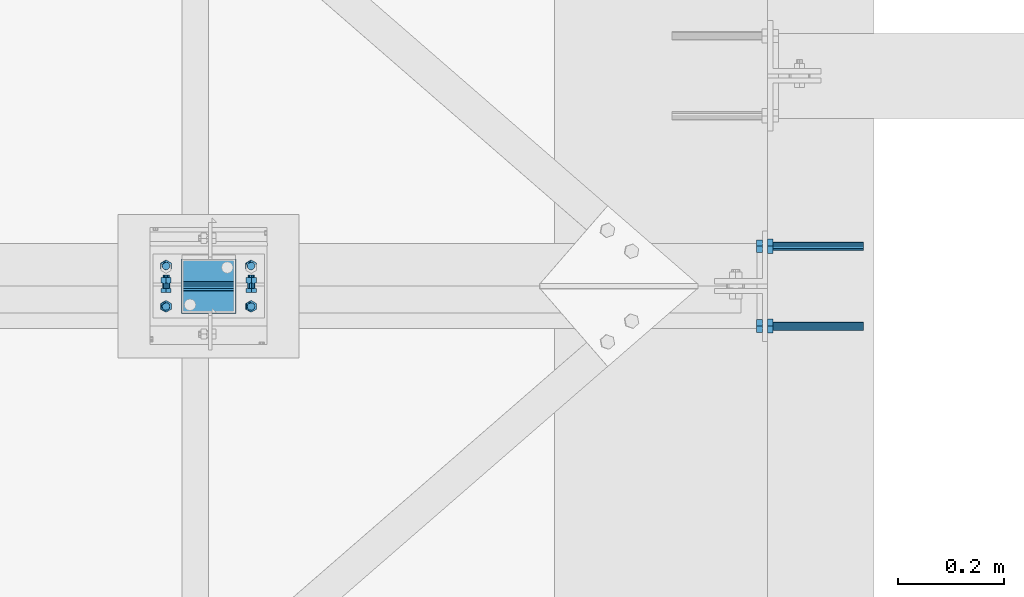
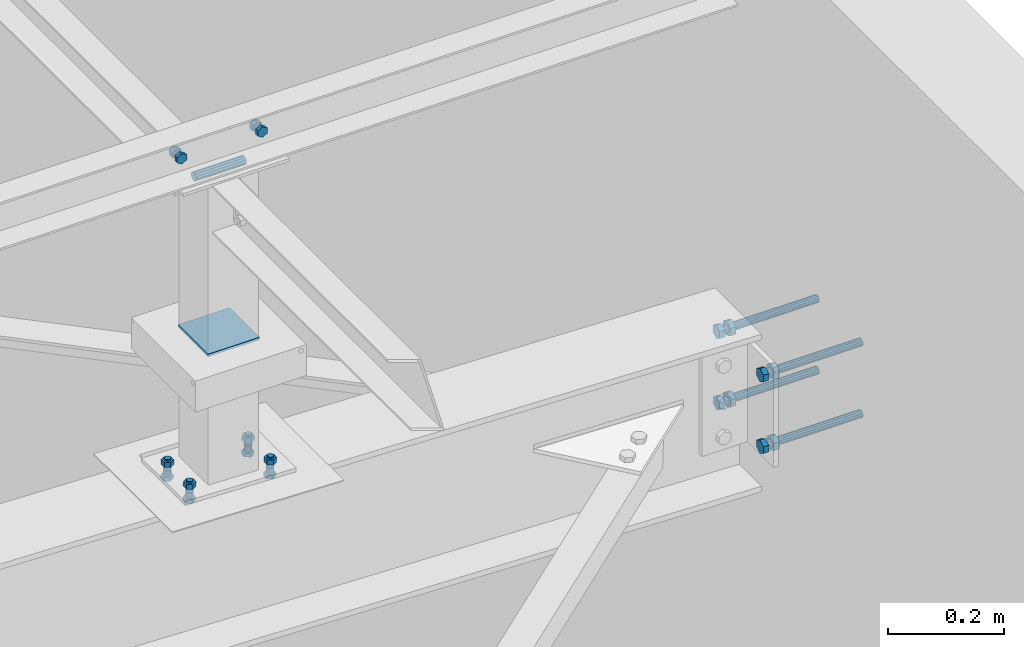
# One storey, part 275 of 3134: 7 mechanical fasteners, 6 elements without a shape of their own.
"""IFC2X3 building model written with IfcOpenShell, lengths in millimetres."""

import ifcopenshell
import ifcopenshell.guid

model = None  # the IFC model being written
_history = None  # IfcOwnerHistory: only IFC2X3 demands one
_inside = {}  # id of a spatial element -> (the spatial element, [elements in it])
_under = {}  # id of a project, library or spatial element -> (it, [spatial elements below it])
_declared = {}  # id of a project -> (the project, [libraries it declares])
_typed = {}  # id of a type object -> (the type object, [elements of that type])
_made_of = {}  # id of a material, layer set ... -> (it, [elements and type objects made of it])


def new_model(schema):
    """Start an empty IFC model of exactly this schema.

    Asked for "IFC4X3", IfcOpenShell would pick the latest addendum, in which some entities
    have other attributes; the version numbers below select the first issue.
    IFC2X3 requires an IfcOwnerHistory on every rooted entity: one is made here for all.
    """
    global model, _history
    if schema == "IFC4X3":
        model = ifcopenshell.file(schema_version=(4, 3, 0, 0))
    else:
        model = ifcopenshell.file(schema=schema)
    _inside.clear()
    _under.clear()
    _declared.clear()
    _typed.clear()
    _made_of.clear()
    _history = None
    if model.schema == "IFC2X3":
        org = make("IfcOrganization", Name="unknown")
        user = make(
            "IfcPersonAndOrganization",
            ThePerson=make("IfcPerson", FamilyName="unknown"),
            TheOrganization=org,
        )
        app = make(
            "IfcApplication",
            ApplicationDeveloper=org,
            Version="unknown",
            ApplicationFullName="unknown",
            ApplicationIdentifier="unknown",
        )
        _history = make(
            "IfcOwnerHistory",
            OwningUser=user,
            OwningApplication=app,
            ChangeAction="ADDED",
            CreationDate=0,
        )
    return model


def make(cls, **values):
    """One entity of the class cls with the attributes given. An attribute that is None is left unset."""
    return model.create_entity(
        cls, **{name: value for name, value in values.items() if value is not None}
    )


def rooted(cls, **values):
    """An entity with a GlobalId (a new one), such as an element, a storey or a relation."""
    return make(cls, GlobalId=ifcopenshell.guid.new(), OwnerHistory=_history, **values)


def si_unit(unit_type, name, prefix=None):
    """IfcSIUnit, for example si_unit("LENGTHUNIT", "METRE", prefix="MILLI")."""
    return make("IfcSIUnit", UnitType=unit_type, Prefix=prefix, Name=name)


def assignment(units):
    """IfcUnitAssignment: the units of a project."""
    return None if units is None else make("IfcUnitAssignment", Units=units)


def point(xyz):
    """IfcCartesianPoint."""
    return None if xyz is None else make("IfcCartesianPoint", Coordinates=xyz)


def direction(xyz):
    """IfcDirection."""
    return None if xyz is None else make("IfcDirection", DirectionRatios=xyz)


def frame(location, z_axis=None, x_axis=None):
    """IfcAxis2Placement3D, a coordinate frame: its origin and axes. An axis left out is left unset."""
    return make(
        "IfcAxis2Placement3D",
        Location=point(location),
        Axis=direction(z_axis),
        RefDirection=direction(x_axis),
    )


def origin_with_axes():
    """The frame at (0, 0, 0) with the z axis (0, 0, 1) and the x axis (1, 0, 0) written out."""
    return frame((0.0, 0.0, 0.0), z_axis=(0.0, 0.0, 1.0), x_axis=(1.0, 0.0, 0.0))


def place(relative_to, where):
    """IfcLocalPlacement: puts the frame where relative to a parent placement (None: the world)."""
    return make(
        "IfcLocalPlacement", PlacementRelTo=relative_to, RelativePlacement=where
    )


def context(
    kind, dimensions, precision=None, world=None, true_north=None, identifier=None
):
    """IfcGeometricRepresentationContext, for example the 3D "Model" context."""
    return make(
        "IfcGeometricRepresentationContext",
        ContextIdentifier=identifier,
        ContextType=kind,
        CoordinateSpaceDimension=dimensions,
        Precision=precision,
        WorldCoordinateSystem=world,
        TrueNorth=true_north,
    )


def subcontext(parent, identifier, kind, view, scale=None):
    """IfcGeometricRepresentationSubContext, for example "Body" below "Model"."""
    return make(
        "IfcGeometricRepresentationSubContext",
        ContextIdentifier=identifier,
        ContextType=kind,
        ParentContext=parent,
        TargetScale=scale,
        TargetView=view,
    )


def project(units=None, contexts=None):
    """IfcProject with its units and contexts."""
    return rooted(
        "IfcProject",
        Name="project",
        RepresentationContexts=contexts,
        UnitsInContext=assignment(units),
    )


def spatial(cls, under=None, at=None, **own):
    """A site, building, storey or space (cls), placed at a placement, below another one or the project."""
    s = rooted(cls, ObjectPlacement=at, **own)
    if under is not None:
        _under.setdefault(under.id(), (under, []))[1].append(s)
    return s


def faces_of(points, faces, orient=None, outer=None):
    """IfcFace entities. A face is a list of loops; a loop is a list of indices into points, from 0.

    orient and outer hold one flag for each loop. By default every Orientation is true, the
    first loop of a face is its IfcFaceOuterBound and the others are IfcFaceBound.
    """
    made = []
    for i, loops in enumerate(faces):
        bounds = []
        for j, loop in enumerate(loops):
            is_outer = j == 0 if outer is None else outer[i][j]
            bounds.append(
                make(
                    "IfcFaceOuterBound" if is_outer else "IfcFaceBound",
                    Bound=make("IfcPolyLoop", Polygon=[points[k] for k in loop]),
                    Orientation=True if orient is None else orient[i][j],
                )
            )
        made.append(make("IfcFace", Bounds=bounds))
    return made


def faceted_brep(points, faces, orient=None, outer=None, voids=None):
    """IfcFacetedBrep: a solid bounded by flat faces; with voids (closed shells), ...WithVoids."""
    shared = [point(p) for p in points]
    hull = make("IfcClosedShell", CfsFaces=faces_of(shared, faces, orient, outer))
    if voids is None:
        return make("IfcFacetedBrep", Outer=hull)
    return make(
        "IfcFacetedBrepWithVoids",
        Outer=hull,
        Voids=[
            make(cls, CfsFaces=faces_of(shared, fs, o, b)) for cls, fs, o, b in voids
        ],
    )


def shape(context_of_items, identifier, shape_type, items):
    """IfcShapeRepresentation: the items that make up one representation, for example the "Body"."""
    return make(
        "IfcShapeRepresentation",
        ContextOfItems=context_of_items,
        RepresentationIdentifier=identifier,
        RepresentationType=shape_type,
        Items=items,
    )


def source(mapping_origin, context_of_items, identifier, shape_type, items):
    """IfcRepresentationMap: a shape defined once, which mapped items show again and again."""
    return make(
        "IfcRepresentationMap",
        MappingOrigin=mapping_origin,
        MappedRepresentation=shape(context_of_items, identifier, shape_type, items),
    )


def transform(
    local_origin,
    x_axis=None,
    y_axis=None,
    z_axis=None,
    scale=None,
    scale2=None,
    scale3=None,
    uniform=True,
):
    """IfcCartesianTransformationOperator3D, or its non-uniform kind. x_axis, y_axis, z_axis: its Axis1, 2, 3."""
    if uniform:
        return make(
            "IfcCartesianTransformationOperator3D",
            Axis1=direction(x_axis),
            Axis2=direction(y_axis),
            LocalOrigin=point(local_origin),
            Scale=scale,
            Axis3=direction(z_axis),
        )
    return make(
        "IfcCartesianTransformationOperator3DnonUniform",
        Axis1=direction(x_axis),
        Axis2=direction(y_axis),
        LocalOrigin=point(local_origin),
        Scale=scale,
        Axis3=direction(z_axis),
        Scale2=scale2,
        Scale3=scale3,
    )


def mapped(mapping_source, mapping_target):
    """IfcMappedItem: shows the shape of a source again, moved by a transform."""
    return make(
        "IfcMappedItem", MappingSource=mapping_source, MappingTarget=mapping_target
    )


def material(Name=None, Category=None):
    """IfcMaterial."""
    return make("IfcMaterial", Name=Name, Category=Category)


def made_of(thing, what):
    """Note that an element or type object is made of a material, layer set ...; save() writes the relation."""
    if what is not None:
        _made_of.setdefault(what.id(), (what, []))[1].append(thing)
    return thing


def type_object(cls, material=None, **own):
    """A type object (cls), such as IfcWallType, which elements share."""
    return made_of(rooted(cls, **own), material)


def element(
    cls,
    number,
    at=None,
    inside=None,
    cuts=None,
    type_object=None,
    material=None,
    context=None,
    identifier="Body",
    shape_type=None,
    held_by="IfcProductDefinitionShape",
    body=None,
    shapes=None,
    **own,
):
    """One element of the class cls, such as IfcWall. Its Tag is "e" and its number.

    at: its placement. inside: the storey or other place that contains it. cuts: it is an
    opening in that element (IfcRelVoidsElement). A single representation is given by context,
    identifier, shape_type and body (its items); several are given by shapes. held_by: the class
    of the entity that holds the representations. save() writes the other relations.
    """
    e = rooted(cls, Tag="e%d" % number, ObjectPlacement=at, **own)
    if body is not None:
        shapes = [shape(context, identifier, shape_type, body)]
    if shapes is not None:
        e.Representation = make(held_by, Representations=shapes)
    if inside is not None:
        _inside.setdefault(inside.id(), (inside, []))[1].append(e)
    if cuts is not None:
        rooted(
            "IfcRelVoidsElement", RelatingBuildingElement=cuts, RelatedOpeningElement=e
        )
    if type_object is not None:
        _typed.setdefault(type_object.id(), (type_object, []))[1].append(e)
    return made_of(e, material)


def aggregate(whole, parts):
    """IfcRelAggregates: a whole, such as a stair, and the parts it consists of."""
    return rooted("IfcRelAggregates", RelatingObject=whole, RelatedObjects=parts)


def save(model, path):
    """Write the relations noted so far, then the file.

    IfcRelAggregates (storeys below a building ...), IfcRelContainedInSpatialStructure (elements
    in a storey), IfcRelDefinesByType, IfcRelAssociatesMaterial and IfcRelDeclares: one each for
    every whole, place, type object, material and project.
    """
    for whole, parts in _under.values():
        aggregate(whole, parts)
    for where, things in _inside.values():
        rooted(
            "IfcRelContainedInSpatialStructure",
            RelatedElements=things,
            RelatingStructure=where,
        )
    for kind, things in _typed.values():
        rooted("IfcRelDefinesByType", RelatedObjects=things, RelatingType=kind)
    for what, things in _made_of.values():
        rooted("IfcRelAssociatesMaterial", RelatedObjects=things, RelatingMaterial=what)
    for by, libraries in _declared.values():
        rooted("IfcRelDeclares", RelatingContext=by, RelatedDefinitions=libraries)
    model.write(path)


model = new_model("IFC2X3")

# Units and contexts
model_context = context("Model", 3, precision=1e-05, world=origin_with_axes())
body_context = subcontext(model_context, "Body", "Model", "MODEL_VIEW")
ifc_project = project(units=[si_unit("LENGTHUNIT", "METRE", prefix="MILLI"), si_unit("AREAUNIT", "SQUARE_METRE"), si_unit("VOLUMEUNIT", "CUBIC_METRE"), si_unit("MASSUNIT", "GRAM", prefix="KILO"), si_unit("TIMEUNIT", "SECOND"), si_unit("PLANEANGLEUNIT", "RADIAN"), si_unit("SOLIDANGLEUNIT", "STERADIAN"), si_unit("THERMODYNAMICTEMPERATUREUNIT", "DEGREE_CELSIUS"), si_unit("LUMINOUSINTENSITYUNIT", "LUMEN")], contexts=[model_context])

# Site, building, storey
site_placement = place(None, origin_with_axes())
site = spatial("IfcSite", under=ifc_project, at=site_placement, CompositionType="ELEMENT")
building_placement = place(site_placement, origin_with_axes())
building = spatial("IfcBuilding", under=site, at=building_placement, Name="Undefined", CompositionType="ELEMENT")
storey_placement = place(building_placement, origin_with_axes())
storey = spatial("IfcBuildingStorey", under=building, at=storey_placement, Name="Undefined", CompositionType="ELEMENT", Elevation=0.0)

# Assembly, mechanical fastener
assembly_1_placement = place(storey_placement, origin_with_axes())
assembly_1 = element("IfcElementAssembly", 1, at=assembly_1_placement, inside=storey, AssemblyPlace="NOTDEFINED", PredefinedType="RIGID_FRAME")
ifc_material_1 = material(Name="HILTI-HAS")
mechanical_fastener_type = type_object("IfcMechanicalFastenerType", Name="Bolt assembly")
shared_shape_1 = source(origin_with_axes(), body_context, "Body", "Brep", [
    faceted_brep([(13.856406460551, -20.56, 0.0), (6.92820323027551, -20.56, 12.0), (-6.92820323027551, -20.56, 12.0), (-13.856406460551, -20.56, 1.69692038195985e-15), (-6.92820323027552, -20.56, -12.0), (6.9282032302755, -20.56, -12.0), (6.9282032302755, -10.0, -12.0), (-6.92820323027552, -10.0, -12.0), (-13.856406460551, -10.0, 1.69692038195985e-15), (-6.92820323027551, -10.0, 12.0), (6.92820323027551, -10.0, 12.0), (13.856406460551, -10.0, 0.0), (8.0, -10.0, 0.0), (6.92820323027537, -10.0, 4.00000000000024), (3.99999999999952, -10.0, 6.92820323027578), (-8.29068785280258e-13, -10.0, 8.0), (-4.00000000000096, -10.0, 6.92820323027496), (-6.9282032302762, -10.0, 3.99999999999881), (-8.0, -10.0, -1.65813757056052e-12), (-6.92820323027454, -10.0, -4.00000000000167), (-3.99999999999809, -10.0, -6.92820323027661), (2.47832457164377e-12, -10.0, -8.0), (4.00000000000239, -10.0, -6.92820323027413), (6.92820323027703, -10.0, -3.99999999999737), (6.92820323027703, 180.0, -3.99999999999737), (4.00000000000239, 180.0, -6.92820323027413), (2.47832457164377e-12, 180.0, -8.0), (-3.99999999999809, 180.0, -6.92820323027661), (-6.92820323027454, 180.0, -4.00000000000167), (-8.0, 180.0, -1.65813757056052e-12), (-6.9282032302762, 180.0, 3.99999999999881), (-4.00000000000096, 180.0, 6.92820323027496), (-8.29068785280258e-13, 180.0, 8.0), (3.99999999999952, 180.0, 6.92820323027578), (6.92820323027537, 180.0, 4.00000000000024), (8.0, 180.0, 0.0), (15.3344231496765, 7.105427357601e-15, 0.0), (7.66721157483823, 7.105427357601e-15, 13.28), (-7.66721157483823, 7.105427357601e-15, 13.28), (-15.3344231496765, 7.105427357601e-15, 1.87792522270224e-15), (-7.66721157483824, 7.105427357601e-15, -13.28), (7.66721157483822, 7.105427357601e-15, -13.28), (7.66721157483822, 10.56, -13.28), (-7.66721157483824, 10.56, -13.28), (-15.3344231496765, 10.56, 1.87792522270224e-15), (-7.66721157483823, 10.56, 13.28), (7.66721157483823, 10.56, 13.28), (15.3344231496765, 10.56, 0.0)], [[[0, 1, 2, 3, 4, 5]], [[6, 7, 8, 9, 10, 11]], [[0, 11, 10, 1]], [[1, 10, 9, 2]], [[2, 9, 8, 3]], [[3, 8, 7, 4]], [[4, 7, 6, 5]], [[5, 6, 11, 0]], [[12, 13, 14, 15, 16, 17, 18, 19, 20, 21, 22, 23]], [[24, 25, 26, 27, 28, 29, 30, 31, 32, 33, 34, 35]], [[12, 35, 34, 13]], [[13, 34, 33, 14]], [[14, 33, 32, 15]], [[15, 32, 31, 16]], [[16, 31, 30, 17]], [[17, 30, 29, 18]], [[18, 29, 28, 19]], [[19, 28, 27, 20]], [[20, 27, 26, 21]], [[21, 26, 25, 22]], [[22, 25, 24, 23]], [[23, 24, 35, 12]], [[36, 37, 38, 39, 40, 41]], [[42, 43, 44, 45, 46, 47]], [[36, 47, 46, 37]], [[37, 46, 45, 38]], [[38, 45, 44, 39]], [[39, 44, 43, 40]], [[40, 43, 42, 41]], [[41, 42, 47, 36]]]),
    faceted_brep([(9.0, -10.0, 0.0), (7.79422863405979, -10.0, 4.50000000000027), (4.49999999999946, -10.0, 7.79422863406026), (-9.3270238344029e-13, -10.0, 9.0), (-4.50000000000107, -10.0, 7.79422863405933), (-7.79422863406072, -10.0, 4.49999999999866), (-9.0, -10.0, -1.86540476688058e-12), (-7.79422863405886, -10.0, -4.50000000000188), (-4.49999999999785, -10.0, -7.79422863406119), (2.78811514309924e-12, -10.0, -9.0), (4.50000000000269, -10.0, -7.7942286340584), (7.79422863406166, -10.0, -4.49999999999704), (7.79422863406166, 0.100000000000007, -4.49999999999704), (4.50000000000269, 0.100000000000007, -7.7942286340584), (2.78811514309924e-12, 0.100000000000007, -9.0), (-4.49999999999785, 0.100000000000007, -7.79422863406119), (-7.79422863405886, 0.100000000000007, -4.50000000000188), (-9.0, 0.100000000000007, -1.86540476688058e-12), (-7.79422863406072, 0.100000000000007, 4.49999999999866), (-4.50000000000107, 0.100000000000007, 7.79422863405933), (-9.3270238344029e-13, 0.100000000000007, 9.0), (4.49999999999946, 0.100000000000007, 7.79422863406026), (7.79422863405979, 0.100000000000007, 4.50000000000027), (9.0, 0.100000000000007, 0.0)], [[[0, 1, 2, 3, 4, 5, 6, 7, 8, 9, 10, 11]], [[12, 13, 14, 15, 16, 17, 18, 19, 20, 21, 22, 23]], [[0, 23, 22, 1]], [[1, 22, 21, 2]], [[2, 21, 20, 3]], [[3, 20, 19, 4]], [[4, 19, 18, 5]], [[5, 18, 17, 6]], [[6, 17, 16, 7]], [[7, 16, 15, 8]], [[8, 15, 14, 9]], [[9, 14, 13, 10]], [[10, 13, 12, 11]], [[11, 12, 23, 0]]]),
])
mechanical_fastener_1_placement = place(assembly_1_placement, frame((32725.0, 55530.0, 10096.4159140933), z_axis=(0.0, -1.0, 0.0), x_axis=(0.0, 0.0, -1.0)))
mechanical_fastener_1 = element("IfcMechanicalFastener", 2, at=mechanical_fastener_1_placement, type_object=mechanical_fastener_type, material=ifc_material_1, Name="Bolt assembly", NominalDiameter=16.0, NominalLength=190.0, context=body_context, shape_type="MappedRepresentation", body=[
    mapped(shared_shape_1, transform((0.0, 0.0, 0.0))),
    mapped(shared_shape_1, transform((150.0, 0.0, 0.0))),
])
aggregate(assembly_1, [mechanical_fastener_1])

assembly_2_placement = place(storey_placement, origin_with_axes())
assembly_2 = element("IfcElementAssembly", 3, at=assembly_2_placement, inside=storey, AssemblyPlace="NOTDEFINED", PredefinedType="RIGID_FRAME")
mechanical_fastener_2_placement = place(assembly_2_placement, frame((32725.0, 55380.0, 10096.4159140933), z_axis=(0.0, -1.0, 0.0), x_axis=(0.0, 0.0, -1.0)))
mechanical_fastener_2 = element("IfcMechanicalFastener", 4, at=mechanical_fastener_2_placement, type_object=mechanical_fastener_type, material=ifc_material_1, Name="Bolt assembly", NominalDiameter=16.0, NominalLength=190.0, context=body_context, shape_type="MappedRepresentation", body=[
    mapped(shared_shape_1, transform((0.0, 0.0, 0.0))),
    mapped(shared_shape_1, transform((150.0, 0.0, 0.0))),
])
aggregate(assembly_2, [mechanical_fastener_2])

assembly_3_placement = place(storey_placement, origin_with_axes())
assembly_3 = element("IfcElementAssembly", 5, at=assembly_3_placement, inside=storey, AssemblyPlace="NOTDEFINED", PredefinedType="RIGID_FRAME")
ifc_material_2 = material(Name="8.8")
shared_shape_2 = source(origin_with_axes(), body_context, "Body", "Brep", [
    faceted_brep([(7.0, 13.0000253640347, 0.0), (6.06217782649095, 13.0000253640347, 3.50000000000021), (3.49999999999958, 13.0000253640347, 6.06217782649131), (-7.25435187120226e-13, 13.0000253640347, 7.0), (-3.50000000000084, 13.0000253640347, 6.06217782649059), (-6.06217782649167, 13.0000253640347, 3.49999999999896), (-7.0, 13.0000253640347, -1.45087037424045e-12), (-6.06217782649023, 13.0000253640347, -3.50000000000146), (-3.49999999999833, 13.0000253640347, -6.06217782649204), (2.1685340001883e-12, 13.0000253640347, -7.0), (3.50000000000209, 13.0000253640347, -6.06217782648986), (6.0621778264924, 13.0000253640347, -3.4999999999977), (6.0621778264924, 15.0999999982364, -3.4999999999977), (3.50000000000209, 15.0999999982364, -6.06217782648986), (2.1685340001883e-12, 15.0999999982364, -7.0), (-3.49999999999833, 15.0999999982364, -6.06217782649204), (-6.06217782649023, 15.0999999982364, -3.50000000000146), (-7.0, 15.0999999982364, -1.45087037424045e-12), (-6.06217782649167, 15.0999999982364, 3.49999999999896), (-3.50000000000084, 15.0999999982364, 6.06217782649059), (-7.25435187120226e-13, 15.0999999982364, 7.0), (3.49999999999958, 15.0999999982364, 6.06217782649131), (6.06217782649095, 15.0999999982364, 3.50000000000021), (7.0, 15.0999999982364, 0.0)], [[[0, 1, 2, 3, 4, 5, 6, 7, 8, 9, 10, 11]], [[12, 13, 14, 15, 16, 17, 18, 19, 20, 21, 22, 23]], [[0, 23, 22, 1]], [[1, 22, 21, 2]], [[2, 21, 20, 3]], [[3, 20, 19, 4]], [[4, 19, 18, 5]], [[5, 18, 17, 6]], [[6, 17, 16, 7]], [[7, 16, 15, 8]], [[8, 15, 14, 9]], [[9, 14, 13, 10]], [[10, 13, 12, 11]], [[11, 12, 23, 0]]]),
])
mechanical_fastener_3_placement = place(assembly_3_placement, frame((31674.2851187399, 55493.0, 10204.1872055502), z_axis=(-0.99951962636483, 0.0, 0.0309922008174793), x_axis=(0.0, -1.0, 0.0)))
mechanical_fastener_3 = element("IfcMechanicalFastener", 6, at=mechanical_fastener_3_placement, type_object=mechanical_fastener_type, material=ifc_material_2, Name="Bolt assembly", NominalDiameter=12.0, NominalLength=2.0, context=body_context, shape_type="MappedRepresentation", body=[
    mapped(shared_shape_2, transform((0.0, -5.32963895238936e-10, -79.9999999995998))),
    mapped(shared_shape_2, transform((76.0, -5.32963895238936e-10, -79.9999999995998))),
    mapped(shared_shape_2, transform((0.0, 5.3114490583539e-10, 79.9999999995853))),
    mapped(shared_shape_2, transform((76.0, 5.3114490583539e-10, 79.9999999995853))),
])
aggregate(assembly_3, [mechanical_fastener_3])

# Assembly, mechanical fasteners
assembly_4_placement = place(storey_placement, origin_with_axes())
assembly_4 = element("IfcElementAssembly", 7, at=assembly_4_placement, inside=storey, AssemblyPlace="NOTDEFINED", PredefinedType="RIGID_FRAME")
shared_shape_3 = source(origin_with_axes(), body_context, "Body", "Brep", [
    faceted_brep([(9.0, -50.0, 0.0), (7.79422863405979, -50.0, 4.50000000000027), (4.49999999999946, -50.0, 7.79422863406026), (-9.3270238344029e-13, -50.0, 9.0), (-4.50000000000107, -50.0, 7.79422863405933), (-7.79422863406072, -50.0, 4.49999999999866), (-9.0, -50.0, -1.86540476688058e-12), (-7.79422863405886, -50.0, -4.50000000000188), (-4.49999999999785, -50.0, -7.79422863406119), (2.78811514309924e-12, -50.0, -9.0), (4.50000000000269, -50.0, -7.7942286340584), (7.79422863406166, -50.0, -4.49999999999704), (7.79422863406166, 50.1, -4.49999999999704), (4.50000000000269, 50.1, -7.7942286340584), (2.78811514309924e-12, 50.1, -9.0), (-4.49999999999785, 50.1, -7.79422863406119), (-7.79422863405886, 50.1, -4.50000000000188), (-9.0, 50.1, -1.86540476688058e-12), (-7.79422863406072, 50.1, 4.49999999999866), (-4.50000000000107, 50.1, 7.79422863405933), (-9.3270238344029e-13, 50.1, 9.0), (4.49999999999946, 50.1, 7.79422863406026), (7.79422863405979, 50.1, 4.50000000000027), (9.0, 50.1, 0.0)], [[[0, 1, 2, 3, 4, 5, 6, 7, 8, 9, 10, 11]], [[12, 13, 14, 15, 16, 17, 18, 19, 20, 21, 22, 23]], [[0, 23, 22, 1]], [[1, 22, 21, 2]], [[2, 21, 20, 3]], [[3, 20, 19, 4]], [[4, 19, 18, 5]], [[5, 18, 17, 6]], [[6, 17, 16, 7]], [[7, 16, 15, 8]], [[8, 15, 14, 9]], [[9, 14, 13, 10]], [[10, 13, 12, 11]], [[11, 12, 23, 0]]]),
])
mechanical_fastener_4_placement = place(assembly_4_placement, frame((31675.0, 55455.0, 10845.0), z_axis=(0.0, 1.0, 0.0), x_axis=(0.0, 0.0, 1.0)))
mechanical_fastener_4 = element("IfcMechanicalFastener", 8, at=mechanical_fastener_4_placement, type_object=mechanical_fastener_type, material=ifc_material_2, Name="Bolt assembly", NominalDiameter=16.0, NominalLength=100.0, context=body_context, shape_type="MappedRepresentation", body=[
    mapped(shared_shape_3, transform((0.0, 0.0, 0.0))),
])
ifc_material_3 = material(Name="6.8")
shared_shape_4 = source(origin_with_axes(), body_context, "Body", "Brep", [
    faceted_brep([(51.5, 1.36424205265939e-12, 50.0), (51.3858192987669, 1.36424205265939e-12, 50.5740251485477), (51.0606601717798, 1.36424205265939e-12, 51.0606601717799), (50.5740251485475, 1.36424205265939e-12, 51.385819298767), (-50.0000000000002, 1.36424205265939e-12, 51.5), (-50.7500000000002, 1.36424205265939e-12, 51.2990381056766), (-51.2990381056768, 1.36424205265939e-12, 50.7499999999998), (-51.5, 1.36424205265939e-12, 49.9999999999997), (-51.5, 1.36424205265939e-12, -50.0000000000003), (-51.2990381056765, 1.36424205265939e-12, -50.7500000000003), (-50.7499999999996, 1.36424205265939e-12, -51.2990381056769), (-49.9999999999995, 1.36424205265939e-12, -51.5), (50.0000000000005, 1.36424205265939e-12, -51.5), (50.7500000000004, 1.36424205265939e-12, -51.2990381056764), (51.2990381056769, 1.36424205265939e-12, -50.7499999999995), (51.5, 1.36424205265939e-12, -49.9999999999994), (51.5, 5.10000000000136, -49.9999999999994), (51.2990381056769, 5.10000000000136, -50.7499999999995), (50.7500000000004, 5.10000000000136, -51.2990381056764), (50.0000000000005, 5.10000000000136, -51.5), (-49.9999999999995, 5.10000000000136, -51.5), (-50.7499999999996, 5.10000000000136, -51.2990381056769), (-51.2990381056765, 5.10000000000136, -50.7500000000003), (-51.5, 5.10000000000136, -50.0000000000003), (-51.5, 5.10000000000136, 49.9999999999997), (-51.2990381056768, 5.10000000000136, 50.7499999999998), (-50.7500000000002, 5.10000000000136, 51.2990381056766), (-50.0000000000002, 5.10000000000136, 51.5), (50.5740251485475, 5.10000000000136, 51.385819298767), (51.0606601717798, 5.10000000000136, 51.0606601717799), (51.3858192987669, 5.10000000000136, 50.5740251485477), (51.5, 5.10000000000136, 50.0)], [[[0, 1, 2, 3, 4, 5, 6, 7, 8, 9, 10, 11, 12, 13, 14, 15]], [[16, 17, 18, 19, 20, 21, 22, 23, 24, 25, 26, 27, 28, 29, 30, 31]], [[0, 31, 30, 1]], [[1, 30, 29, 2]], [[2, 29, 28, 3]], [[3, 28, 27, 4]], [[4, 27, 26, 5]], [[5, 26, 25, 6]], [[6, 25, 24, 7]], [[7, 24, 23, 8]], [[8, 23, 22, 9]], [[9, 22, 21, 10]], [[10, 21, 20, 11]], [[11, 20, 19, 12]], [[12, 19, 18, 13]], [[13, 18, 17, 14]], [[14, 17, 16, 15]], [[15, 16, 31, 0]]]),
])
mechanical_fastener_5_placement = place(assembly_4_placement, frame((31675.0, 55455.0, 10503.87), z_axis=(0.0, -1.0, 0.0), x_axis=(-1.0, 0.0, 0.0)))
mechanical_fastener_5 = element("IfcMechanicalFastener", 9, at=mechanical_fastener_5_placement, type_object=mechanical_fastener_type, material=ifc_material_3, Name="Bolt assembly", NominalDiameter=10.0, NominalLength=5.0, context=body_context, shape_type="MappedRepresentation", body=[
    mapped(shared_shape_4, transform((0.0, 0.0, 0.0))),
])
aggregate(assembly_4, [mechanical_fastener_4, mechanical_fastener_5])

# Assembly, mechanical fastener
assembly_5_placement = place(storey_placement, origin_with_axes())
assembly_5 = element("IfcElementAssembly", 10, at=assembly_5_placement, inside=storey, AssemblyPlace="NOTDEFINED", PredefinedType="RIGID_FRAME")
shared_shape_5 = source(origin_with_axes(), body_context, "Body", "Brep", [
    faceted_brep([(10.9696551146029, -12.0, 0.0), (5.48482755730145, -12.0, 9.5), (-5.48482755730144, -12.0, 9.5), (-10.9696551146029, -12.0, 1.34339530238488e-15), (-5.48482755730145, -12.0, -9.5), (5.48482755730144, -12.0, -9.50000000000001), (5.48482755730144, -4.0, -9.50000000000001), (-5.48482755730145, -4.0, -9.5), (-10.9696551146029, -4.0, 1.34339530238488e-15), (-5.48482755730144, -4.0, 9.5), (5.48482755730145, -4.0, 9.5), (10.9696551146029, -4.0, 0.0), (6.0, -4.0, 0.0), (5.19615242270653, -4.0, 3.00000000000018), (2.99999999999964, -4.0, 5.19615242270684), (-6.21801588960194e-13, -4.0, 6.0), (-3.00000000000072, -4.0, 5.19615242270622), (-5.19615242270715, -4.0, 2.9999999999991), (-6.0, -4.0, -1.24360317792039e-12), (-5.19615242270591, -4.0, -3.00000000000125), (-2.99999999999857, -4.0, -5.19615242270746), (1.85874342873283e-12, -4.0, -6.0), (3.00000000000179, -4.0, -5.1961524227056), (5.19615242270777, -4.0, -2.99999999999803), (5.19615242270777, 21.0, -2.99999999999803), (3.00000000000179, 21.0, -5.1961524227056), (1.85874342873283e-12, 21.0, -6.0), (-2.99999999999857, 21.0, -5.19615242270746), (-5.19615242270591, 21.0, -3.00000000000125), (-6.0, 21.0, -1.24360317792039e-12), (-5.19615242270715, 21.0, 2.9999999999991), (-3.00000000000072, 21.0, 5.19615242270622), (-6.21801588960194e-13, 21.0, 6.0), (2.99999999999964, 21.0, 5.19615242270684), (5.19615242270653, 21.0, 3.00000000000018), (6.0, 21.0, 0.0), (10.9696551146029, 6.00000000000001, 0.0), (5.48482755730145, 6.00000000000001, 9.5), (-5.48482755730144, 6.00000000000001, 9.5), (-10.9696551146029, 6.00000000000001, 1.34339530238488e-15), (-5.48482755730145, 6.00000000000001, -9.5), (5.48482755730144, 6.00000000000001, -9.50000000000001), (5.48482755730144, 16.0, -9.50000000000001), (-5.48482755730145, 16.0, -9.5), (-10.9696551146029, 16.0, 1.34339530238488e-15), (-5.48482755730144, 16.0, 9.5), (5.48482755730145, 16.0, 9.5), (10.9696551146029, 16.0, 0.0)], [[[0, 1, 2, 3, 4, 5]], [[6, 7, 8, 9, 10, 11]], [[0, 11, 10, 1]], [[1, 10, 9, 2]], [[2, 9, 8, 3]], [[3, 8, 7, 4]], [[4, 7, 6, 5]], [[5, 6, 11, 0]], [[12, 13, 14, 15, 16, 17, 18, 19, 20, 21, 22, 23]], [[24, 25, 26, 27, 28, 29, 30, 31, 32, 33, 34, 35]], [[12, 35, 34, 13]], [[13, 34, 33, 14]], [[14, 33, 32, 15]], [[15, 32, 31, 16]], [[16, 31, 30, 17]], [[17, 30, 29, 18]], [[18, 29, 28, 19]], [[19, 28, 27, 20]], [[20, 27, 26, 21]], [[21, 26, 25, 22]], [[22, 25, 24, 23]], [[23, 24, 35, 12]], [[36, 37, 38, 39, 40, 41]], [[42, 43, 44, 45, 46, 47]], [[36, 47, 46, 37]], [[37, 46, 45, 38]], [[38, 45, 44, 39]], [[39, 44, 43, 40]], [[40, 43, 42, 41]], [[41, 42, 47, 36]]]),
    faceted_brep([(7.0, -3.9, 0.0), (6.06217782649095, -3.9, 3.50000000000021), (3.49999999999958, -3.9, 6.06217782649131), (-7.25435187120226e-13, -3.9, 7.0), (-3.50000000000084, -3.9, 6.06217782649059), (-6.06217782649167, -3.9, 3.49999999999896), (-7.0, -3.9, -1.45087037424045e-12), (-6.06217782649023, -3.9, -3.50000000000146), (-3.49999999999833, -3.9, -6.06217782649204), (2.1685340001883e-12, -3.9, -7.0), (3.50000000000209, -3.9, -6.06217782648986), (6.0621778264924, -3.9, -3.4999999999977), (6.0621778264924, 0.0999999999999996, -3.4999999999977), (3.50000000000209, 0.0999999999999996, -6.06217782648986), (2.1685340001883e-12, 0.0999999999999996, -7.0), (-3.49999999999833, 0.0999999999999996, -6.06217782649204), (-6.06217782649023, 0.0999999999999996, -3.50000000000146), (-7.0, 0.0999999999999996, -1.45087037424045e-12), (-6.06217782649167, 0.0999999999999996, 3.49999999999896), (-3.50000000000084, 0.0999999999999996, 6.06217782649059), (-7.25435187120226e-13, 0.0999999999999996, 7.0), (3.49999999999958, 0.0999999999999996, 6.06217782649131), (6.06217782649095, 0.0999999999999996, 3.50000000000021), (7.0, 0.0999999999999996, 0.0), (7.0, -0.1, 0.0), (6.06217782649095, -0.1, 3.50000000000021), (3.49999999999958, -0.1, 6.06217782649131), (-7.25435187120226e-13, -0.1, 7.0), (-3.50000000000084, -0.1, 6.06217782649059), (-6.06217782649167, -0.1, 3.49999999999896), (-7.0, -0.1, -1.45087037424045e-12), (-6.06217782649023, -0.1, -3.50000000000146), (-3.49999999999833, -0.1, -6.06217782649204), (2.1685340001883e-12, -0.1, -7.0), (3.50000000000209, -0.1, -6.06217782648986), (6.0621778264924, -0.1, -3.4999999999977), (6.0621778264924, 6.00000000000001, -3.4999999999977), (3.50000000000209, 6.00000000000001, -6.06217782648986), (2.1685340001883e-12, 6.00000000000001, -7.0), (-3.49999999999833, 6.00000000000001, -6.06217782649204), (-6.06217782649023, 6.00000000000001, -3.50000000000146), (-7.0, 6.00000000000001, -1.45087037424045e-12), (-6.06217782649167, 6.00000000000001, 3.49999999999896), (-3.50000000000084, 6.00000000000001, 6.06217782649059), (-7.25435187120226e-13, 6.00000000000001, 7.0), (3.49999999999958, 6.00000000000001, 6.06217782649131), (6.06217782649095, 6.00000000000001, 3.50000000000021), (7.0, 6.00000000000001, 0.0)], [[[0, 1, 2, 3, 4, 5, 6, 7, 8, 9, 10, 11]], [[12, 13, 14, 15, 16, 17, 18, 19, 20, 21, 22, 23]], [[0, 23, 22, 1]], [[1, 22, 21, 2]], [[2, 21, 20, 3]], [[3, 20, 19, 4]], [[4, 19, 18, 5]], [[5, 18, 17, 6]], [[6, 17, 16, 7]], [[7, 16, 15, 8]], [[8, 15, 14, 9]], [[9, 14, 13, 10]], [[10, 13, 12, 11]], [[11, 12, 23, 0]], [[24, 25, 26, 27, 28, 29, 30, 31, 32, 33, 34, 35]], [[36, 37, 38, 39, 40, 41, 42, 43, 44, 45, 46, 47]], [[24, 47, 46, 25]], [[25, 46, 45, 26]], [[26, 45, 44, 27]], [[27, 44, 43, 28]], [[28, 43, 42, 29]], [[29, 42, 41, 30]], [[30, 41, 40, 31]], [[31, 40, 39, 32]], [[32, 39, 38, 33]], [[33, 38, 37, 34]], [[34, 37, 36, 35]], [[35, 36, 47, 24]]]),
])
mechanical_fastener_6_placement = place(assembly_5_placement, frame((31675.0, 55455.0, 10900.0), z_axis=(1.0, 0.0, 0.0), x_axis=(0.0, 0.0, -1.0)))
mechanical_fastener_6 = element("IfcMechanicalFastener", 11, at=mechanical_fastener_6_placement, type_object=mechanical_fastener_type, material=ifc_material_2, Name="Bolt assembly", NominalDiameter=12.0, NominalLength=25.0, context=body_context, shape_type="MappedRepresentation", body=[
    mapped(shared_shape_5, transform((0.0, -5.32963895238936e-10, -79.9999999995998))),
    mapped(shared_shape_5, transform((0.0, 5.3114490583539e-10, 79.9999999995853))),
])
aggregate(assembly_5, [mechanical_fastener_6])

assembly_6_placement = place(storey_placement, origin_with_axes())
assembly_6 = element("IfcElementAssembly", 12, at=assembly_6_placement, inside=storey, Name="IPE330", AssemblyPlace="NOTDEFINED", PredefinedType="RIGID_FRAME")
shared_shape_6 = source(origin_with_axes(), body_context, "Body", "Brep", [
    faceted_brep([(10.9696551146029, -6.48557985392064, 0.0), (5.48482755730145, -6.48557985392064, 9.5), (-5.48482755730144, -6.48557985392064, 9.5), (-10.9696551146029, -6.48557985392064, 1.34339530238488e-15), (-5.48482755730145, -6.48557985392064, -9.5), (5.48482755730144, -6.48557985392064, -9.50000000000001), (5.48482755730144, 1.51442014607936, -9.50000000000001), (-5.48482755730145, 1.51442014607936, -9.5), (-10.9696551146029, 1.51442014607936, 1.34339530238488e-15), (-5.48482755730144, 1.51442014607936, 9.5), (5.48482755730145, 1.51442014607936, 9.5), (10.9696551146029, 1.51442014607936, 0.0), (6.0, 1.51442014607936, 0.0), (5.19615242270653, 1.51442014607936, 3.00000000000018), (2.99999999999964, 1.51442014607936, 5.19615242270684), (-6.21801588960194e-13, 1.51442014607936, 6.0), (-3.00000000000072, 1.51442014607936, 5.19615242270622), (-5.19615242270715, 1.51442014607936, 2.9999999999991), (-6.0, 1.51442014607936, -1.24360317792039e-12), (-5.19615242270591, 1.51442014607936, -3.00000000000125), (-2.99999999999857, 1.51442014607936, -5.19615242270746), (1.85874342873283e-12, 1.51442014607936, -6.0), (3.00000000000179, 1.51442014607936, -5.1961524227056), (5.19615242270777, 1.51442014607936, -2.99999999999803), (5.19615242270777, 36.5144201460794, -2.99999999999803), (3.00000000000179, 36.5144201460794, -5.1961524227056), (1.85874342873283e-12, 36.5144201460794, -6.0), (-2.99999999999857, 36.5144201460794, -5.19615242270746), (-5.19615242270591, 36.5144201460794, -3.00000000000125), (-6.0, 36.5144201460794, -1.24360317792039e-12), (-5.19615242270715, 36.5144201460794, 2.9999999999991), (-3.00000000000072, 36.5144201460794, 5.19615242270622), (-6.21801588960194e-13, 36.5144201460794, 6.0), (2.99999999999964, 36.5144201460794, 5.19615242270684), (5.19615242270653, 36.5144201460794, 3.00000000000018), (6.0, 36.5144201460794, 0.0), (10.9696551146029, 23.0139082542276, 0.0), (5.48482755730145, 23.0139082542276, 9.5), (-5.48482755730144, 23.0139082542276, 9.5), (-10.9696551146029, 23.0139082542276, 1.34339530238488e-15), (-5.48482755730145, 23.0139082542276, -9.5), (5.48482755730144, 23.0139082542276, -9.50000000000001), (5.48482755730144, 33.0139082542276, -9.50000000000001), (-5.48482755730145, 33.0139082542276, -9.5), (-10.9696551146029, 33.0139082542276, 1.34339530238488e-15), (-5.48482755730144, 33.0139082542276, 9.5), (5.48482755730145, 33.0139082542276, 9.5), (10.9696551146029, 33.0139082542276, 0.0)], [[[0, 1, 2, 3, 4, 5]], [[6, 7, 8, 9, 10, 11]], [[0, 11, 10, 1]], [[1, 10, 9, 2]], [[2, 9, 8, 3]], [[3, 8, 7, 4]], [[4, 7, 6, 5]], [[5, 6, 11, 0]], [[12, 13, 14, 15, 16, 17, 18, 19, 20, 21, 22, 23]], [[24, 25, 26, 27, 28, 29, 30, 31, 32, 33, 34, 35]], [[12, 35, 34, 13]], [[13, 34, 33, 14]], [[14, 33, 32, 15]], [[15, 32, 31, 16]], [[16, 31, 30, 17]], [[17, 30, 29, 18]], [[18, 29, 28, 19]], [[19, 28, 27, 20]], [[20, 27, 26, 21]], [[21, 26, 25, 22]], [[22, 25, 24, 23]], [[23, 24, 35, 12]], [[36, 37, 38, 39, 40, 41]], [[42, 43, 44, 45, 46, 47]], [[36, 47, 46, 37]], [[37, 46, 45, 38]], [[38, 45, 44, 39]], [[39, 44, 43, 40]], [[40, 43, 42, 41]], [[41, 42, 47, 36]]]),
    faceted_brep([(7.0, 14.9139082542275, 0.0), (6.06217782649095, 14.9139082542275, 3.50000000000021), (3.49999999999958, 14.9139082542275, 6.06217782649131), (-7.25435187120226e-13, 14.9139082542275, 7.0), (-3.50000000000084, 14.9139082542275, 6.06217782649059), (-6.06217782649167, 14.9139082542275, 3.49999999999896), (-7.0, 14.9139082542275, -1.45087037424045e-12), (-6.06217782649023, 14.9139082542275, -3.50000000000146), (-3.49999999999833, 14.9139082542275, -6.06217782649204), (2.1685340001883e-12, 14.9139082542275, -7.0), (3.50000000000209, 14.9139082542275, -6.06217782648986), (6.0621778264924, 14.9139082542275, -3.4999999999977), (6.0621778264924, 23.0139082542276, -3.4999999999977), (3.50000000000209, 23.0139082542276, -6.06217782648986), (2.1685340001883e-12, 23.0139082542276, -7.0), (-3.49999999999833, 23.0139082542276, -6.06217782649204), (-6.06217782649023, 23.0139082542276, -3.50000000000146), (-7.0, 23.0139082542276, -1.45087037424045e-12), (-6.06217782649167, 23.0139082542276, 3.49999999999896), (-3.50000000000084, 23.0139082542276, 6.06217782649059), (-7.25435187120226e-13, 23.0139082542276, 7.0), (3.49999999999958, 23.0139082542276, 6.06217782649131), (6.06217782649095, 23.0139082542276, 3.50000000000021), (7.0, 23.0139082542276, 0.0), (7.0, 1.61442014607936, 0.0), (6.06217782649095, 1.61442014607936, 3.50000000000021), (3.49999999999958, 1.61442014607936, 6.06217782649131), (-7.25435187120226e-13, 1.61442014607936, 7.0), (-3.50000000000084, 1.61442014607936, 6.06217782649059), (-6.06217782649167, 1.61442014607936, 3.49999999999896), (-7.0, 1.61442014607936, -1.45087037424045e-12), (-6.06217782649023, 1.61442014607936, -3.50000000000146), (-3.49999999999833, 1.61442014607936, -6.06217782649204), (2.1685340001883e-12, 1.61442014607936, -7.0), (3.50000000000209, 1.61442014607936, -6.06217782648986), (6.0621778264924, 1.61442014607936, -3.4999999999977), (6.0621778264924, 13.1144201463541, -3.4999999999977), (3.50000000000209, 13.1144201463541, -6.06217782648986), (2.1685340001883e-12, 13.1144201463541, -7.0), (-3.49999999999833, 13.1144201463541, -6.06217782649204), (-6.06217782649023, 13.1144201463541, -3.50000000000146), (-7.0, 13.1144201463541, -1.45087037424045e-12), (-6.06217782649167, 13.1144201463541, 3.49999999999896), (-3.50000000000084, 13.1144201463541, 6.06217782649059), (-7.25435187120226e-13, 13.1144201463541, 7.0), (3.49999999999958, 13.1144201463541, 6.06217782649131), (6.06217782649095, 13.1144201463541, 3.50000000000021), (7.0, 13.1144201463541, 0.0)], [[[0, 1, 2, 3, 4, 5, 6, 7, 8, 9, 10, 11]], [[12, 13, 14, 15, 16, 17, 18, 19, 20, 21, 22, 23]], [[0, 23, 22, 1]], [[1, 22, 21, 2]], [[2, 21, 20, 3]], [[3, 20, 19, 4]], [[4, 19, 18, 5]], [[5, 18, 17, 6]], [[6, 17, 16, 7]], [[7, 16, 15, 8]], [[8, 15, 14, 9]], [[9, 14, 13, 10]], [[10, 13, 12, 11]], [[11, 12, 23, 0]], [[24, 25, 26, 27, 28, 29, 30, 31, 32, 33, 34, 35]], [[36, 37, 38, 39, 40, 41, 42, 43, 44, 45, 46, 47]], [[24, 47, 46, 25]], [[25, 46, 45, 26]], [[26, 45, 44, 27]], [[27, 44, 43, 28]], [[28, 43, 42, 29]], [[29, 42, 41, 30]], [[30, 41, 40, 31]], [[31, 40, 39, 32]], [[32, 39, 38, 33]], [[33, 38, 37, 34]], [[34, 37, 36, 35]], [[35, 36, 47, 24]]]),
])
mechanical_fastener_7_placement = place(assembly_6_placement, frame((31674.2851187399, 55493.0, 10204.1872055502), z_axis=(-0.99951962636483, 0.0, 0.0309922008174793), x_axis=(0.0, -1.0, 0.0)))
mechanical_fastener_7 = element("IfcMechanicalFastener", 13, at=mechanical_fastener_7_placement, type_object=mechanical_fastener_type, material=ifc_material_2, Name="Bolt assembly", NominalDiameter=12.0, NominalLength=35.0, context=body_context, shape_type="MappedRepresentation", body=[
    mapped(shared_shape_6, transform((0.0, -5.32963895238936e-10, -79.9999999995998))),
    mapped(shared_shape_6, transform((76.0, -5.32963895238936e-10, -79.9999999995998))),
    mapped(shared_shape_6, transform((0.0, 5.3114490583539e-10, 79.9999999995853))),
    mapped(shared_shape_6, transform((76.0, 5.3114490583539e-10, 79.9999999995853))),
])
aggregate(assembly_6, [mechanical_fastener_7])

save(model, "model.ifc")
